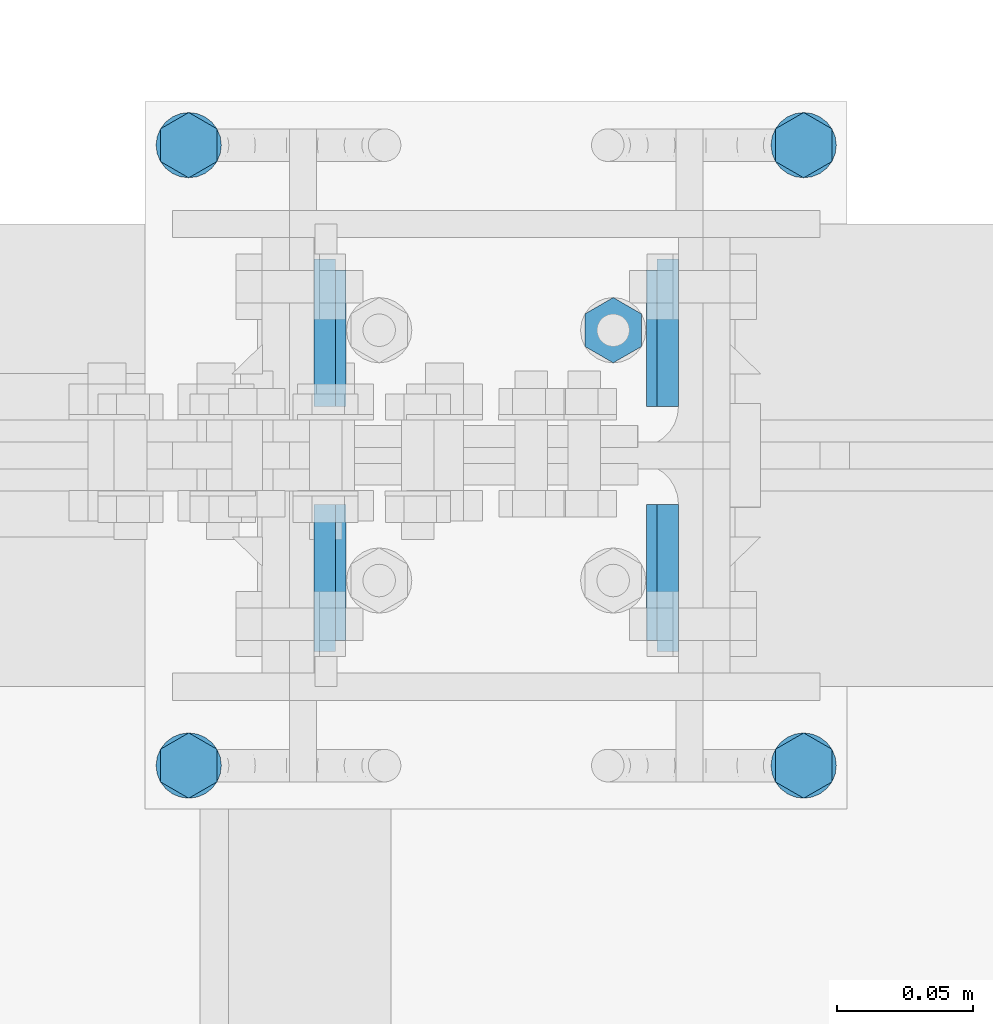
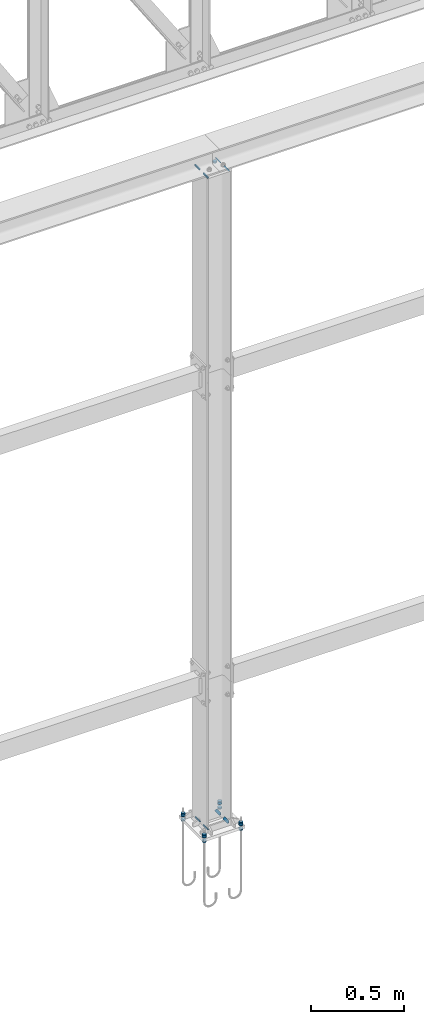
# One storey, part 214 of 251: 21 mechanical fasteners, 16 fasteners.
"""IFC4 building model written with IfcOpenShell, lengths in metres."""

from ifc_helpers import new_model, si_unit, frame, origin_with_axes, place, context, project, spatial, polyline, outline, extrude, type_object, element, save


model = new_model("IFC4")

# Units and contexts
model_context = context("Model", 3, precision=1e-05, world=origin_with_axes())
ifc_project = project(units=[si_unit("LENGTHUNIT", "METRE"), si_unit("AREAUNIT", "SQUARE_METRE"), si_unit("VOLUMEUNIT", "CUBIC_METRE"), si_unit("MASSUNIT", "GRAM", prefix="KILO"), si_unit("TIMEUNIT", "SECOND"), si_unit("PLANEANGLEUNIT", "RADIAN"), si_unit("SOLIDANGLEUNIT", "STERADIAN"), si_unit("THERMODYNAMICTEMPERATUREUNIT", "DEGREE_CELSIUS")], contexts=[model_context])

# Site, building, storey
placement_1 = place(None, origin_with_axes())
site = spatial("IfcSite", under=ifc_project, at=placement_1, Name="Italia", CompositionType="ELEMENT")
building = spatial("IfcBuilding", under=site, at=placement_1, Name="Deposito", CompositionType="ELEMENT")
storey = spatial("IfcBuildingStorey", under=building, at=placement_1, Name="Storey 0", CompositionType="ELEMENT", Elevation=0.0)

# Fasteners
fastener_type_1 = type_object("IfcFastenerType", Name="Collegamenti 0068_-006 0074_-007", PredefinedType="WELD")
placement_2 = place(placement_1, origin_with_axes())
fastener_1_placement = place(placement_2, origin_with_axes())
element("IfcFastener", 1, at=fastener_1_placement, inside=storey, type_object=fastener_type_1, Name="Collegamenti 0068_-006 0074_-007", context=model_context, shape_type="SweptSolid", body=[
    extrude(outline(polyline([(0.0, 0.0), (0.0118074, 0.0121734), (0.0118074, 0.0), (0.0, 0.0)])), frame((15.0448, 20.018, 0.06995), z_axis=(0.0, 1.0, 0.0), x_axis=(-1.0, 0.0, 0.0)), (0.0, 0.0, 1.0), 0.0501003),
])
fastener_type_2 = type_object("IfcFastenerType", Name="Collegamenti 0068_-006 0074_-007", PredefinedType="WELD")
fastener_2_placement = place(placement_2, origin_with_axes())
element("IfcFastener", 2, at=fastener_2_placement, inside=storey, type_object=fastener_type_2, Name="Collegamenti 0068_-006 0074_-007", context=model_context, shape_type="SweptSolid", body=[
    extrude(outline(polyline([(0.0, 0.0), (0.0118074, 0.0121734), (0.0118074, 0.0), (0.0, 0.0)])), frame((15.1552, 20.0681, 0.06995), z_axis=(0.0, -1.0, 0.0), x_axis=(1.0, 0.0, 0.0)), (0.0, 0.0, 1.0), 0.0501003),
])
fastener_type_3 = type_object("IfcFastenerType", Name="Collegamenti 0068_-006 0074_-007", PredefinedType="WELD")
fastener_3_placement = place(placement_2, origin_with_axes())
element("IfcFastener", 3, at=fastener_3_placement, inside=storey, type_object=fastener_type_3, Name="Collegamenti 0068_-006 0074_-007", context=model_context, shape_type="SweptSolid", body=[
    extrude(outline(polyline([(0.0, 0.0), (0.0118074, 0.0121734), (0.0118074, 0.0), (0.0, 0.0)])), frame((15.1552, 19.982, 0.06995), z_axis=(0.0, -1.0, 0.0), x_axis=(1.0, 0.0, 0.0)), (0.0, 0.0, 1.0), 0.0501003),
])
fastener_type_4 = type_object("IfcFastenerType", Name="Collegamenti 0068_-006 0074_-007", PredefinedType="WELD")
fastener_4_placement = place(placement_2, origin_with_axes())
element("IfcFastener", 4, at=fastener_4_placement, inside=storey, type_object=fastener_type_4, Name="Collegamenti 0068_-006 0074_-007", context=model_context, shape_type="SweptSolid", body=[
    extrude(outline(polyline([(0.0, 0.0), (0.0118074, 0.0121734), (0.0118074, 0.0), (0.0, 0.0)])), frame((15.0448, 19.9319, 0.06995), z_axis=(0.0, 1.0, 0.0), x_axis=(-1.0, 0.0, 0.0)), (0.0, 0.0, 1.0), 0.0501003),
])
fastener_type_5 = type_object("IfcFastenerType", Name="Collegamenti 0068_-006 0074_-007", PredefinedType="WELD")
fastener_5_placement = place(placement_2, origin_with_axes())
element("IfcFastener", 5, at=fastener_5_placement, inside=storey, type_object=fastener_type_5, Name="Collegamenti 0068_-006 0074_-007", context=model_context, shape_type="SweptSolid", body=[
    extrude(outline(polyline([(0.0, 0.0), (0.0118074, 0.0121734), (0.0118074, 0.0), (0.0, 0.0)])), frame((15.0448, 20.018, 0.06995), z_axis=(0.0, 1.0, 0.0), x_axis=(-1.0, 0.0, 0.0)), (0.0, 0.0, 1.0), 0.0501003),
])
fastener_type_6 = type_object("IfcFastenerType", Name="Collegamenti 0068_-006 0074_-007", PredefinedType="WELD")
fastener_6_placement = place(placement_2, origin_with_axes())
element("IfcFastener", 6, at=fastener_6_placement, inside=storey, type_object=fastener_type_6, Name="Collegamenti 0068_-006 0074_-007", context=model_context, shape_type="SweptSolid", body=[
    extrude(outline(polyline([(0.0, 0.0), (0.0118074, 0.0121734), (0.0118074, 0.0), (0.0, 0.0)])), frame((15.1552, 20.0681, 0.06995), z_axis=(0.0, -1.0, 0.0), x_axis=(1.0, 0.0, 0.0)), (0.0, 0.0, 1.0), 0.0501003),
])
fastener_type_7 = type_object("IfcFastenerType", Name="Collegamenti 0068_-006 0074_-007", PredefinedType="WELD")
fastener_7_placement = place(placement_2, origin_with_axes())
element("IfcFastener", 7, at=fastener_7_placement, inside=storey, type_object=fastener_type_7, Name="Collegamenti 0068_-006 0074_-007", context=model_context, shape_type="SweptSolid", body=[
    extrude(outline(polyline([(0.0, 0.0), (0.0118074, 0.0121734), (0.0118074, 0.0), (0.0, 0.0)])), frame((15.1552, 19.982, 0.06995), z_axis=(0.0, -1.0, 0.0), x_axis=(1.0, 0.0, 0.0)), (0.0, 0.0, 1.0), 0.0501003),
])
fastener_type_8 = type_object("IfcFastenerType", Name="Collegamenti 0068_-006 0074_-007", PredefinedType="WELD")
fastener_8_placement = place(placement_2, origin_with_axes())
element("IfcFastener", 8, at=fastener_8_placement, inside=storey, type_object=fastener_type_8, Name="Collegamenti 0068_-006 0074_-007", context=model_context, shape_type="SweptSolid", body=[
    extrude(outline(polyline([(0.0, 0.0), (0.0118074, 0.0121734), (0.0118074, 0.0), (0.0, 0.0)])), frame((15.0448, 19.9319, 0.06995), z_axis=(0.0, 1.0, 0.0), x_axis=(-1.0, 0.0, 0.0)), (0.0, 0.0, 1.0), 0.0501003),
])

# Mechanical fasteners
mechanical_fastener_type_1 = type_object("IfcMechanicalFastenerType", Name="Collegamenti 0068_-006 0074_-007", PredefinedType="BOLT")
mechanical_fastener_1_placement = place(placement_2, origin_with_axes())
element("IfcMechanicalFastener", 9, at=mechanical_fastener_1_placement, inside=storey, type_object=mechanical_fastener_type_1, Name="Collegamenti 0068_-006 0074_-007", NominalDiameter=0.0119992, context=model_context, shape_type="SweptSolid", body=[
    extrude(outline(polyline([(0.0, 0.0), (-0.012001, 0.0), (-0.0179996, 0.0103922), (-0.012001, 0.0207844), (0.0, 0.0207844), (0.00600052, 0.0103922), (0.0, 0.0)])), frame((15.2234, 19.892, 0.072), z_axis=(0.0, 0.0, 1.0), x_axis=(0.0, 1.0, 0.0)), (0.0, 0.0, 1.0), 0.0096),
])
mechanical_fastener_type_2 = type_object("IfcMechanicalFastenerType", Name="Collegamenti 0068_-006 0074_-007", PredefinedType="BOLT")
mechanical_fastener_2_placement = place(placement_2, origin_with_axes())
element("IfcMechanicalFastener", 10, at=mechanical_fastener_2_placement, inside=storey, type_object=mechanical_fastener_type_2, Name="Collegamenti 0068_-006 0074_-007", NominalDiameter=0.0119992, context=model_context, shape_type="SweptSolid", body=[
    extrude(outline(polyline([(0.0, 0.0), (-0.012001, 0.0), (-0.0179996, 0.0103922), (-0.012001, 0.0207844), (0.0, 0.0207844), (0.00600052, 0.0103922), (0.0, 0.0)])), frame((15.2234, 19.892, 0.0816), z_axis=(0.0, 0.0, 1.0), x_axis=(0.0, 1.0, 0.0)), (0.0, 0.0, 1.0), 0.0096),
])
mechanical_fastener_type_3 = type_object("IfcMechanicalFastenerType", Name="Collegamenti 0068_-006 0074_-007", PredefinedType="BOLT")
mechanical_fastener_3_placement = place(placement_2, origin_with_axes())
element("IfcMechanicalFastener", 11, at=mechanical_fastener_3_placement, inside=storey, type_object=mechanical_fastener_type_3, Name="Collegamenti 0068_-006 0074_-007", NominalDiameter=0.0119992, context=model_context, shape_type="SweptSolid", body=[
    extrude(outline(polyline([(0.0, 0.0), (-0.012001, 0.0), (-0.0179996, 0.0103922), (-0.012001, 0.0207844), (0.0, 0.0207844), (0.00600052, 0.0103922), (0.0, 0.0)])), frame((15.2234, 19.892, 0.0384), z_axis=(0.0, 0.0, 1.0), x_axis=(0.0, 1.0, 0.0)), (0.0, 0.0, 1.0), 0.0096),
])
mechanical_fastener_type_4 = type_object("IfcMechanicalFastenerType", Name="Collegamenti 0068_-006 0074_-007", PredefinedType="BOLT")
mechanical_fastener_4_placement = place(placement_2, origin_with_axes())
element("IfcMechanicalFastener", 12, at=mechanical_fastener_4_placement, inside=storey, type_object=mechanical_fastener_type_4, Name="Collegamenti 0068_-006 0074_-007", NominalDiameter=0.024, context=model_context, shape_type="SweptSolid", body=[
    extrude(outline(polyline([(0.0, 0.0), (-0.000408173, -0.00310612), (-0.00160599, -0.00599957), (-0.00351334, -0.00848484), (-0.00599861, -0.0103922), (-0.00889397, -0.011591), (-0.0119991, -0.0120001), (-0.0151043, -0.011591), (-0.0179996, -0.0103922), (-0.0204849, -0.00848484), (-0.0223923, -0.00599957), (-0.0235901, -0.00310612), (-0.0239983, 0.0), (-0.0235901, 0.00310612), (-0.0223923, 0.00599957), (-0.0204849, 0.00848484), (-0.0179996, 0.0103922), (-0.0151043, 0.011591), (-0.0119991, 0.0120001), (-0.00889397, 0.011591), (-0.00599861, 0.0103922), (-0.00351334, 0.00848484), (-0.00160599, 0.00599957), (-0.000408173, 0.00310612), (0.0, 0.0)])), frame((15.213, 19.898, 0.07), z_axis=(0.0, 0.0, 1.0), x_axis=(0.0, 1.0, 0.0)), (0.0, 0.0, 1.0), 0.002),
])
mechanical_fastener_type_5 = type_object("IfcMechanicalFastenerType", Name="Collegamenti 0068_-006 0074_-007", PredefinedType="BOLT")
mechanical_fastener_5_placement = place(placement_2, origin_with_axes())
element("IfcMechanicalFastener", 13, at=mechanical_fastener_5_placement, inside=storey, type_object=mechanical_fastener_type_5, Name="Collegamenti 0068_-006 0074_-007", NominalDiameter=0.024, context=model_context, shape_type="SweptSolid", body=[
    extrude(outline(polyline([(0.0, 0.0), (-0.000408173, -0.00310612), (-0.00160599, -0.00599957), (-0.00351334, -0.00848484), (-0.00599861, -0.0103922), (-0.00889397, -0.011591), (-0.0119991, -0.0120001), (-0.0151043, -0.011591), (-0.0179996, -0.0103922), (-0.0204849, -0.00848484), (-0.0223923, -0.00599957), (-0.0235901, -0.00310612), (-0.0239983, 0.0), (-0.0235901, 0.00310612), (-0.0223923, 0.00599957), (-0.0204849, 0.00848484), (-0.0179996, 0.0103922), (-0.0151043, 0.011591), (-0.0119991, 0.0120001), (-0.00889397, 0.011591), (-0.00599861, 0.0103922), (-0.00351334, 0.00848484), (-0.00160599, 0.00599957), (-0.000408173, 0.00310612), (0.0, 0.0)])), frame((15.213, 19.898, 0.048), z_axis=(0.0, 0.0, 1.0), x_axis=(0.0, 1.0, 0.0)), (0.0, 0.0, 1.0), 0.002),
])
mechanical_fastener_type_6 = type_object("IfcMechanicalFastenerType", Name="Collegamenti 0068_-006 0074_-007", PredefinedType="BOLT")
mechanical_fastener_6_placement = place(placement_2, origin_with_axes())
element("IfcMechanicalFastener", 14, at=mechanical_fastener_6_placement, inside=storey, type_object=mechanical_fastener_type_6, Name="Collegamenti 0068_-006 0074_-007", NominalDiameter=0.0119992, context=model_context, shape_type="SweptSolid", body=[
    extrude(outline(polyline([(0.0, 0.0), (-0.012001, 0.0), (-0.0180016, 0.0103922), (-0.012001, 0.0207844), (0.0, 0.0207844), (0.00599861, 0.0103922), (0.0, 0.0)])), frame((15.2234, 20.12, 0.072), z_axis=(0.0, 0.0, 1.0), x_axis=(0.0, 1.0, 0.0)), (0.0, 0.0, 1.0), 0.0096),
])
mechanical_fastener_type_7 = type_object("IfcMechanicalFastenerType", Name="Collegamenti 0068_-006 0074_-007", PredefinedType="BOLT")
mechanical_fastener_7_placement = place(placement_2, origin_with_axes())
element("IfcMechanicalFastener", 15, at=mechanical_fastener_7_placement, inside=storey, type_object=mechanical_fastener_type_7, Name="Collegamenti 0068_-006 0074_-007", NominalDiameter=0.0119992, context=model_context, shape_type="SweptSolid", body=[
    extrude(outline(polyline([(0.0, 0.0), (-0.012001, 0.0), (-0.0180016, 0.0103922), (-0.012001, 0.0207844), (0.0, 0.0207844), (0.00599861, 0.0103922), (0.0, 0.0)])), frame((15.2234, 20.12, 0.0816), z_axis=(0.0, 0.0, 1.0), x_axis=(0.0, 1.0, 0.0)), (0.0, 0.0, 1.0), 0.0096),
])
mechanical_fastener_type_8 = type_object("IfcMechanicalFastenerType", Name="Collegamenti 0068_-006 0074_-007", PredefinedType="BOLT")
mechanical_fastener_8_placement = place(placement_2, origin_with_axes())
element("IfcMechanicalFastener", 16, at=mechanical_fastener_8_placement, inside=storey, type_object=mechanical_fastener_type_8, Name="Collegamenti 0068_-006 0074_-007", NominalDiameter=0.0119992, context=model_context, shape_type="SweptSolid", body=[
    extrude(outline(polyline([(0.0, 0.0), (-0.012001, 0.0), (-0.0180016, 0.0103922), (-0.012001, 0.0207844), (0.0, 0.0207844), (0.00599861, 0.0103922), (0.0, 0.0)])), frame((15.2234, 20.12, 0.0384), z_axis=(0.0, 0.0, 1.0), x_axis=(0.0, 1.0, 0.0)), (0.0, 0.0, 1.0), 0.0096),
])
mechanical_fastener_type_9 = type_object("IfcMechanicalFastenerType", Name="Collegamenti 0068_-006 0074_-007", PredefinedType="BOLT")
mechanical_fastener_9_placement = place(placement_2, origin_with_axes())
element("IfcMechanicalFastener", 17, at=mechanical_fastener_9_placement, inside=storey, type_object=mechanical_fastener_type_9, Name="Collegamenti 0068_-006 0074_-007", NominalDiameter=0.024, context=model_context, shape_type="SweptSolid", body=[
    extrude(outline(polyline([(0.0, 0.0), (-0.000408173, -0.00310612), (-0.00160599, -0.00599957), (-0.00351334, -0.00848484), (-0.00599861, -0.0103922), (-0.00889397, -0.011591), (-0.0119991, -0.0120001), (-0.0151043, -0.011591), (-0.0179996, -0.0103922), (-0.0204849, -0.00848484), (-0.0223923, -0.00599957), (-0.0235901, -0.00310612), (-0.0239983, 0.0), (-0.0235901, 0.00310612), (-0.0223923, 0.00599957), (-0.0204849, 0.00848484), (-0.0179996, 0.0103922), (-0.0151043, 0.011591), (-0.0119991, 0.0120001), (-0.00889397, 0.011591), (-0.00599861, 0.0103922), (-0.00351334, 0.00848484), (-0.00160599, 0.00599957), (-0.000408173, 0.00310612), (0.0, 0.0)])), frame((15.213, 20.126, 0.07), z_axis=(0.0, 0.0, 1.0), x_axis=(0.0, 1.0, 0.0)), (0.0, 0.0, 1.0), 0.002),
])
mechanical_fastener_type_10 = type_object("IfcMechanicalFastenerType", Name="Collegamenti 0068_-006 0074_-007", PredefinedType="BOLT")
mechanical_fastener_10_placement = place(placement_2, origin_with_axes())
element("IfcMechanicalFastener", 18, at=mechanical_fastener_10_placement, inside=storey, type_object=mechanical_fastener_type_10, Name="Collegamenti 0068_-006 0074_-007", NominalDiameter=0.024, context=model_context, shape_type="SweptSolid", body=[
    extrude(outline(polyline([(0.0, 0.0), (-0.000408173, -0.00310612), (-0.00160599, -0.00599957), (-0.00351334, -0.00848484), (-0.00599861, -0.0103922), (-0.00889397, -0.011591), (-0.0119991, -0.0120001), (-0.0151043, -0.011591), (-0.0179996, -0.0103922), (-0.0204849, -0.00848484), (-0.0223923, -0.00599957), (-0.0235901, -0.00310612), (-0.0239983, 0.0), (-0.0235901, 0.00310612), (-0.0223923, 0.00599957), (-0.0204849, 0.00848484), (-0.0179996, 0.0103922), (-0.0151043, 0.011591), (-0.0119991, 0.0120001), (-0.00889397, 0.011591), (-0.00599861, 0.0103922), (-0.00351334, 0.00848484), (-0.00160599, 0.00599957), (-0.000408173, 0.00310612), (0.0, 0.0)])), frame((15.213, 20.126, 0.048), z_axis=(0.0, 0.0, 1.0), x_axis=(0.0, 1.0, 0.0)), (0.0, 0.0, 1.0), 0.002),
])
mechanical_fastener_type_11 = type_object("IfcMechanicalFastenerType", Name="Collegamenti 0068_-006 0074_-007", PredefinedType="BOLT")
mechanical_fastener_11_placement = place(placement_2, origin_with_axes())
element("IfcMechanicalFastener", 19, at=mechanical_fastener_11_placement, inside=storey, type_object=mechanical_fastener_type_11, Name="Collegamenti 0068_-006 0074_-007", NominalDiameter=0.0119992, context=model_context, shape_type="SweptSolid", body=[
    extrude(outline(polyline([(0.0, 0.0), (-0.012001, 0.0), (-0.0179996, 0.0103922), (-0.012001, 0.0207844), (0.0, 0.0207844), (0.00600052, 0.0103922), (0.0, 0.0)])), frame((14.9974, 19.892, 0.072), z_axis=(0.0, 0.0, 1.0), x_axis=(0.0, 1.0, 0.0)), (0.0, 0.0, 1.0), 0.0096),
])
mechanical_fastener_type_12 = type_object("IfcMechanicalFastenerType", Name="Collegamenti 0068_-006 0074_-007", PredefinedType="BOLT")
mechanical_fastener_12_placement = place(placement_2, origin_with_axes())
element("IfcMechanicalFastener", 20, at=mechanical_fastener_12_placement, inside=storey, type_object=mechanical_fastener_type_12, Name="Collegamenti 0068_-006 0074_-007", NominalDiameter=0.0119992, context=model_context, shape_type="SweptSolid", body=[
    extrude(outline(polyline([(0.0, 0.0), (-0.012001, 0.0), (-0.0179996, 0.0103922), (-0.012001, 0.0207844), (0.0, 0.0207844), (0.00600052, 0.0103922), (0.0, 0.0)])), frame((14.9974, 19.892, 0.0816), z_axis=(0.0, 0.0, 1.0), x_axis=(0.0, 1.0, 0.0)), (0.0, 0.0, 1.0), 0.0096),
])
mechanical_fastener_type_13 = type_object("IfcMechanicalFastenerType", Name="Collegamenti 0068_-006 0074_-007", PredefinedType="BOLT")
mechanical_fastener_13_placement = place(placement_2, origin_with_axes())
element("IfcMechanicalFastener", 21, at=mechanical_fastener_13_placement, inside=storey, type_object=mechanical_fastener_type_13, Name="Collegamenti 0068_-006 0074_-007", NominalDiameter=0.0119992, context=model_context, shape_type="SweptSolid", body=[
    extrude(outline(polyline([(0.0, 0.0), (-0.012001, 0.0), (-0.0179996, 0.0103922), (-0.012001, 0.0207844), (0.0, 0.0207844), (0.00600052, 0.0103922), (0.0, 0.0)])), frame((14.9974, 19.892, 0.0384), z_axis=(0.0, 0.0, 1.0), x_axis=(0.0, 1.0, 0.0)), (0.0, 0.0, 1.0), 0.0096),
])
mechanical_fastener_type_14 = type_object("IfcMechanicalFastenerType", Name="Collegamenti 0068_-006 0074_-007", PredefinedType="BOLT")
mechanical_fastener_14_placement = place(placement_2, origin_with_axes())
element("IfcMechanicalFastener", 22, at=mechanical_fastener_14_placement, inside=storey, type_object=mechanical_fastener_type_14, Name="Collegamenti 0068_-006 0074_-007", NominalDiameter=0.024, context=model_context, shape_type="SweptSolid", body=[
    extrude(outline(polyline([(0.0, 0.0), (-0.000408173, -0.00310612), (-0.00160599, -0.00599957), (-0.00351334, -0.00848484), (-0.00599861, -0.0103922), (-0.00889397, -0.011591), (-0.0119991, -0.0120001), (-0.0151043, -0.011591), (-0.0179996, -0.0103922), (-0.0204849, -0.00848484), (-0.0223923, -0.00599957), (-0.0235901, -0.00310612), (-0.0239983, 0.0), (-0.0235901, 0.00310612), (-0.0223923, 0.00599957), (-0.0204849, 0.00848484), (-0.0179996, 0.0103922), (-0.0151043, 0.011591), (-0.0119991, 0.0120001), (-0.00889397, 0.011591), (-0.00599861, 0.0103922), (-0.00351334, 0.00848484), (-0.00160599, 0.00599957), (-0.000408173, 0.00310612), (0.0, 0.0)])), frame((14.987, 19.898, 0.07), z_axis=(0.0, 0.0, 1.0), x_axis=(0.0, 1.0, 0.0)), (0.0, 0.0, 1.0), 0.002),
])
mechanical_fastener_type_15 = type_object("IfcMechanicalFastenerType", Name="Collegamenti 0068_-006 0074_-007", PredefinedType="BOLT")
mechanical_fastener_15_placement = place(placement_2, origin_with_axes())
element("IfcMechanicalFastener", 23, at=mechanical_fastener_15_placement, inside=storey, type_object=mechanical_fastener_type_15, Name="Collegamenti 0068_-006 0074_-007", NominalDiameter=0.024, context=model_context, shape_type="SweptSolid", body=[
    extrude(outline(polyline([(0.0, 0.0), (-0.000408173, -0.00310612), (-0.00160599, -0.00599957), (-0.00351334, -0.00848484), (-0.00599861, -0.0103922), (-0.00889397, -0.011591), (-0.0119991, -0.0120001), (-0.0151043, -0.011591), (-0.0179996, -0.0103922), (-0.0204849, -0.00848484), (-0.0223923, -0.00599957), (-0.0235901, -0.00310612), (-0.0239983, 0.0), (-0.0235901, 0.00310612), (-0.0223923, 0.00599957), (-0.0204849, 0.00848484), (-0.0179996, 0.0103922), (-0.0151043, 0.011591), (-0.0119991, 0.0120001), (-0.00889397, 0.011591), (-0.00599861, 0.0103922), (-0.00351334, 0.00848484), (-0.00160599, 0.00599957), (-0.000408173, 0.00310612), (0.0, 0.0)])), frame((14.987, 19.898, 0.048), z_axis=(0.0, 0.0, 1.0), x_axis=(0.0, 1.0, 0.0)), (0.0, 0.0, 1.0), 0.002),
])
mechanical_fastener_type_16 = type_object("IfcMechanicalFastenerType", Name="Collegamenti 0068_-006 0074_-007", PredefinedType="BOLT")
mechanical_fastener_16_placement = place(placement_2, origin_with_axes())
element("IfcMechanicalFastener", 24, at=mechanical_fastener_16_placement, inside=storey, type_object=mechanical_fastener_type_16, Name="Collegamenti 0068_-006 0074_-007", NominalDiameter=0.0119992, context=model_context, shape_type="SweptSolid", body=[
    extrude(outline(polyline([(0.0, 0.0), (-0.012001, 0.0), (-0.0180016, 0.0103922), (-0.012001, 0.0207844), (0.0, 0.0207844), (0.00599861, 0.0103922), (0.0, 0.0)])), frame((14.9974, 20.12, 0.072), z_axis=(0.0, 0.0, 1.0), x_axis=(0.0, 1.0, 0.0)), (0.0, 0.0, 1.0), 0.0096),
])
mechanical_fastener_type_17 = type_object("IfcMechanicalFastenerType", Name="Collegamenti 0068_-006 0074_-007", PredefinedType="BOLT")
mechanical_fastener_17_placement = place(placement_2, origin_with_axes())
element("IfcMechanicalFastener", 25, at=mechanical_fastener_17_placement, inside=storey, type_object=mechanical_fastener_type_17, Name="Collegamenti 0068_-006 0074_-007", NominalDiameter=0.0119992, context=model_context, shape_type="SweptSolid", body=[
    extrude(outline(polyline([(0.0, 0.0), (-0.012001, 0.0), (-0.0180016, 0.0103922), (-0.012001, 0.0207844), (0.0, 0.0207844), (0.00599861, 0.0103922), (0.0, 0.0)])), frame((14.9974, 20.12, 0.0816), z_axis=(0.0, 0.0, 1.0), x_axis=(0.0, 1.0, 0.0)), (0.0, 0.0, 1.0), 0.0096),
])
mechanical_fastener_type_18 = type_object("IfcMechanicalFastenerType", Name="Collegamenti 0068_-006 0074_-007", PredefinedType="BOLT")
mechanical_fastener_18_placement = place(placement_2, origin_with_axes())
element("IfcMechanicalFastener", 26, at=mechanical_fastener_18_placement, inside=storey, type_object=mechanical_fastener_type_18, Name="Collegamenti 0068_-006 0074_-007", NominalDiameter=0.0119992, context=model_context, shape_type="SweptSolid", body=[
    extrude(outline(polyline([(0.0, 0.0), (-0.012001, 0.0), (-0.0180016, 0.0103922), (-0.012001, 0.0207844), (0.0, 0.0207844), (0.00599861, 0.0103922), (0.0, 0.0)])), frame((14.9974, 20.12, 0.0384), z_axis=(0.0, 0.0, 1.0), x_axis=(0.0, 1.0, 0.0)), (0.0, 0.0, 1.0), 0.0096),
])
mechanical_fastener_type_19 = type_object("IfcMechanicalFastenerType", Name="Collegamenti 0068_-006 0074_-007", PredefinedType="BOLT")
mechanical_fastener_19_placement = place(placement_2, origin_with_axes())
element("IfcMechanicalFastener", 27, at=mechanical_fastener_19_placement, inside=storey, type_object=mechanical_fastener_type_19, Name="Collegamenti 0068_-006 0074_-007", NominalDiameter=0.024, context=model_context, shape_type="SweptSolid", body=[
    extrude(outline(polyline([(0.0, 0.0), (-0.000408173, -0.00310612), (-0.00160599, -0.00599957), (-0.00351334, -0.00848484), (-0.00599861, -0.0103922), (-0.00889397, -0.011591), (-0.0119991, -0.0120001), (-0.0151043, -0.011591), (-0.0179996, -0.0103922), (-0.0204849, -0.00848484), (-0.0223923, -0.00599957), (-0.0235901, -0.00310612), (-0.0239983, 0.0), (-0.0235901, 0.00310612), (-0.0223923, 0.00599957), (-0.0204849, 0.00848484), (-0.0179996, 0.0103922), (-0.0151043, 0.011591), (-0.0119991, 0.0120001), (-0.00889397, 0.011591), (-0.00599861, 0.0103922), (-0.00351334, 0.00848484), (-0.00160599, 0.00599957), (-0.000408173, 0.00310612), (0.0, 0.0)])), frame((14.987, 20.126, 0.07), z_axis=(0.0, 0.0, 1.0), x_axis=(0.0, 1.0, 0.0)), (0.0, 0.0, 1.0), 0.002),
])
mechanical_fastener_type_20 = type_object("IfcMechanicalFastenerType", Name="Collegamenti 0068_-006 0074_-007", PredefinedType="BOLT")
mechanical_fastener_20_placement = place(placement_2, origin_with_axes())
element("IfcMechanicalFastener", 28, at=mechanical_fastener_20_placement, inside=storey, type_object=mechanical_fastener_type_20, Name="Collegamenti 0068_-006 0074_-007", NominalDiameter=0.024, context=model_context, shape_type="SweptSolid", body=[
    extrude(outline(polyline([(0.0, 0.0), (-0.000408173, -0.00310612), (-0.00160599, -0.00599957), (-0.00351334, -0.00848484), (-0.00599861, -0.0103922), (-0.00889397, -0.011591), (-0.0119991, -0.0120001), (-0.0151043, -0.011591), (-0.0179996, -0.0103922), (-0.0204849, -0.00848484), (-0.0223923, -0.00599957), (-0.0235901, -0.00310612), (-0.0239983, 0.0), (-0.0235901, 0.00310612), (-0.0223923, 0.00599957), (-0.0204849, 0.00848484), (-0.0179996, 0.0103922), (-0.0151043, 0.011591), (-0.0119991, 0.0120001), (-0.00889397, 0.011591), (-0.00599861, 0.0103922), (-0.00351334, 0.00848484), (-0.00160599, 0.00599957), (-0.000408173, 0.00310612), (0.0, 0.0)])), frame((14.987, 20.126, 0.048), z_axis=(0.0, 0.0, 1.0), x_axis=(0.0, 1.0, 0.0)), (0.0, 0.0, 1.0), 0.002),
])

# Fasteners
fastener_type_9 = type_object("IfcFastenerType", Name="Collegamenti 7068_-014 7074_-015", PredefinedType="WELD")
fastener_9_placement = place(placement_2, origin_with_axes())
element("IfcFastener", 29, at=fastener_9_placement, inside=storey, type_object=fastener_type_9, Name="Collegamenti 7068_-014 7074_-015", context=model_context, shape_type="SweptSolid", body=[
    extrude(outline(polyline([(0.0, 0.0), (-0.00792789, -0.00817347), (-0.00792789, 0.0), (0.0, 0.0)])), frame((15.0409, 20.0721, 4.33305), z_axis=(0.0, -1.0, 0.0), x_axis=(1.0, 0.0, 0.0)), (0.0, 0.0, 1.0), 0.0541),
])
fastener_type_10 = type_object("IfcFastenerType", Name="Collegamenti 7068_-014 7074_-015", PredefinedType="WELD")
fastener_10_placement = place(placement_2, origin_with_axes())
element("IfcFastener", 30, at=fastener_10_placement, inside=storey, type_object=fastener_type_10, Name="Collegamenti 7068_-014 7074_-015", context=model_context, shape_type="SweptSolid", body=[
    extrude(outline(polyline([(0.0, 0.0), (-0.00792789, -0.00817347), (-0.00792789, 0.0), (0.0, 0.0)])), frame((15.1591, 20.018, 4.33305), z_axis=(0.0, 1.0, 0.0), x_axis=(-1.0, 0.0, 0.0)), (0.0, 0.0, 1.0), 0.0541),
])
fastener_type_11 = type_object("IfcFastenerType", Name="Collegamenti 7068_-014 7074_-015", PredefinedType="WELD")
fastener_11_placement = place(placement_2, origin_with_axes())
element("IfcFastener", 31, at=fastener_11_placement, inside=storey, type_object=fastener_type_11, Name="Collegamenti 7068_-014 7074_-015", context=model_context, shape_type="SweptSolid", body=[
    extrude(outline(polyline([(0.0, 0.0), (-0.00792789, -0.00817347), (-0.00792789, 0.0), (0.0, 0.0)])), frame((15.1591, 19.9279, 4.33305), z_axis=(0.0, 1.0, 0.0), x_axis=(-1.0, 0.0, 0.0)), (0.0, 0.0, 1.0), 0.0541),
])
fastener_type_12 = type_object("IfcFastenerType", Name="Collegamenti 7068_-014 7074_-015", PredefinedType="WELD")
fastener_12_placement = place(placement_2, origin_with_axes())
element("IfcFastener", 32, at=fastener_12_placement, inside=storey, type_object=fastener_type_12, Name="Collegamenti 7068_-014 7074_-015", context=model_context, shape_type="SweptSolid", body=[
    extrude(outline(polyline([(0.0, 0.0), (-0.00792789, -0.00817347), (-0.00792789, 0.0), (0.0, 0.0)])), frame((15.0409, 19.982, 4.33305), z_axis=(0.0, -1.0, 0.0), x_axis=(1.0, 0.0, 0.0)), (0.0, 0.0, 1.0), 0.0541),
])
fastener_type_13 = type_object("IfcFastenerType", Name="Collegamenti 7068_-014 7074_-015", PredefinedType="WELD")
fastener_13_placement = place(placement_2, origin_with_axes())
element("IfcFastener", 33, at=fastener_13_placement, inside=storey, type_object=fastener_type_13, Name="Collegamenti 7068_-014 7074_-015", context=model_context, shape_type="SweptSolid", body=[
    extrude(outline(polyline([(0.0, 0.0), (-0.00792789, -0.00817347), (-0.00792789, 0.0), (0.0, 0.0)])), frame((15.0409, 20.0721, 4.33305), z_axis=(0.0, -1.0, 0.0), x_axis=(1.0, 0.0, 0.0)), (0.0, 0.0, 1.0), 0.0541),
])
fastener_type_14 = type_object("IfcFastenerType", Name="Collegamenti 7068_-014 7074_-015", PredefinedType="WELD")
fastener_14_placement = place(placement_2, origin_with_axes())
element("IfcFastener", 34, at=fastener_14_placement, inside=storey, type_object=fastener_type_14, Name="Collegamenti 7068_-014 7074_-015", context=model_context, shape_type="SweptSolid", body=[
    extrude(outline(polyline([(0.0, 0.0), (-0.00792789, -0.00817347), (-0.00792789, 0.0), (0.0, 0.0)])), frame((15.1591, 20.018, 4.33305), z_axis=(0.0, 1.0, 0.0), x_axis=(-1.0, 0.0, 0.0)), (0.0, 0.0, 1.0), 0.0541),
])
fastener_type_15 = type_object("IfcFastenerType", Name="Collegamenti 7068_-014 7074_-015", PredefinedType="WELD")
fastener_15_placement = place(placement_2, origin_with_axes())
element("IfcFastener", 35, at=fastener_15_placement, inside=storey, type_object=fastener_type_15, Name="Collegamenti 7068_-014 7074_-015", context=model_context, shape_type="SweptSolid", body=[
    extrude(outline(polyline([(0.0, 0.0), (-0.00792789, -0.00817347), (-0.00792789, 0.0), (0.0, 0.0)])), frame((15.1591, 19.9279, 4.33305), z_axis=(0.0, 1.0, 0.0), x_axis=(-1.0, 0.0, 0.0)), (0.0, 0.0, 1.0), 0.0541),
])
fastener_type_16 = type_object("IfcFastenerType", Name="Collegamenti 7068_-014 7074_-015", PredefinedType="WELD")
fastener_16_placement = place(placement_2, origin_with_axes())
element("IfcFastener", 36, at=fastener_16_placement, inside=storey, type_object=fastener_type_16, Name="Collegamenti 7068_-014 7074_-015", context=model_context, shape_type="SweptSolid", body=[
    extrude(outline(polyline([(0.0, 0.0), (-0.00792789, -0.00817347), (-0.00792789, 0.0), (0.0, 0.0)])), frame((15.0409, 19.982, 4.33305), z_axis=(0.0, -1.0, 0.0), x_axis=(1.0, 0.0, 0.0)), (0.0, 0.0, 1.0), 0.0541),
])

# Mechanical fastener
mechanical_fastener_type_21 = type_object("IfcMechanicalFastenerType", Name="Collegamenti 7068_-014 7074_-015", PredefinedType="BOLT")
mechanical_fastener_21_placement = place(placement_2, origin_with_axes())
element("IfcMechanicalFastener", 37, at=mechanical_fastener_21_placement, inside=storey, type_object=mechanical_fastener_type_21, Name="Collegamenti 7068_-014 7074_-015", NominalDiameter=0.0119991, context=model_context, shape_type="SweptSolid", body=[
    extrude(outline(polyline([(0.0, 0.0), (0.0119991, 0.0), (0.0179996, -0.0103922), (0.0119991, -0.0207844), (0.0, -0.0207844), (-0.00600052, -0.0103922), (0.0, 0.0)])), frame((15.1534, 20.04, 4.333), z_axis=(0.0, 0.0, -1.0), x_axis=(0.0, 1.0, 0.0)), (0.0, 0.0, 1.0), 0.00960016),
])

save(model, "model.ifc")
